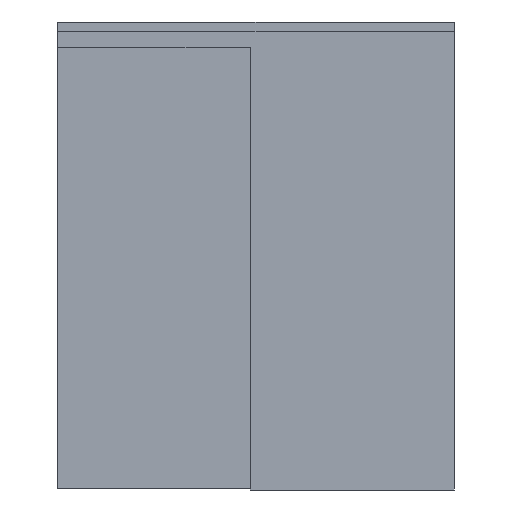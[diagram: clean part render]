
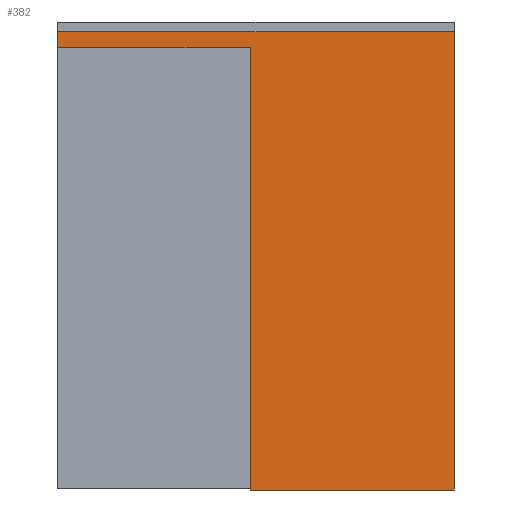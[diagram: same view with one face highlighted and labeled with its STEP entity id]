
A CAD part, front view. The second image highlights one B-rep face of the part: STEP entity #382.
In plain terms, the highlighted planar face has unit normal (0, -1, 0).
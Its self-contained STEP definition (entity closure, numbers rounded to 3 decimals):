
#382=ADVANCED_FACE('',(#1040),#1041,.F.);
#1040=FACE_OUTER_BOUND('',#2007,.T.);
#1041=PLANE('',#2008);
#2007=EDGE_LOOP('',(#3061,#3062,#3063,#3064,#3065,#3066));
#2008=AXIS2_PLACEMENT_3D('',#3067,#3068,#3069);
#3061=ORIENTED_EDGE('',*,*,#5786,.T.);
#3062=ORIENTED_EDGE('',*,*,#5776,.F.);
#3063=ORIENTED_EDGE('',*,*,#5780,.F.);
#3064=ORIENTED_EDGE('',*,*,#5784,.T.);
#3065=ORIENTED_EDGE('',*,*,#5787,.F.);
#3066=ORIENTED_EDGE('',*,*,#5788,.F.);
#3067=CARTESIAN_POINT('',(0.0,-46.5,2333.0));
#3068=DIRECTION('',(0.0,1.0,-0.0));
#3069=DIRECTION('',(0.0,0.0,1.0));
#5776=EDGE_CURVE('',#6918,#6913,#6920,.T.);
#5780=EDGE_CURVE('',#6924,#6918,#6926,.T.);
#5784=EDGE_CURVE('',#6924,#6930,#6932,.T.);
#5786=EDGE_CURVE('',#6934,#6913,#6935,.T.);
#5787=EDGE_CURVE('',#6936,#6930,#6937,.T.);
#5788=EDGE_CURVE('',#6934,#6936,#6938,.T.);
#6913=VERTEX_POINT('',#8601);
#6918=VERTEX_POINT('',#8608);
#6920=LINE('',#8611,#8612);
#6924=VERTEX_POINT('',#8617);
#6926=LINE('',#8620,#8621);
#6930=VERTEX_POINT('',#8626);
#6932=LINE('',#8629,#8630);
#6934=VERTEX_POINT('',#8632);
#6935=LINE('',#8633,#8634);
#6936=VERTEX_POINT('',#8635);
#6937=LINE('',#8636,#8637);
#6938=LINE('',#8638,#8639);
#8601=CARTESIAN_POINT('',(995.0,-46.5,2287.5));
#8608=CARTESIAN_POINT('',(995.0,-46.5,0.0));
#8611=CARTESIAN_POINT('',(995.0,-46.5,7.0));
#8612=VECTOR('',#10849,1.0);
#8617=CARTESIAN_POINT('',(2050.0,-46.5,0.0));
#8620=CARTESIAN_POINT('',(1327.5,-46.5,0.0));
#8621=VECTOR('',#10852,1.0);
#8626=CARTESIAN_POINT('',(2050.0,-46.5,2368.0));
#8629=CARTESIAN_POINT('',(2050.0,-46.5,7.0));
#8630=VECTOR('',#10855,1.0);
#8632=CARTESIAN_POINT('',(0.0,-46.5,2287.5));
#8633=CARTESIAN_POINT('',(0.0,-46.5,2287.5));
#8634=VECTOR('',#10856,1.0);
#8635=CARTESIAN_POINT('',(0.0,-46.5,2368.0));
#8636=CARTESIAN_POINT('',(1270.0,-46.5,2368.0));
#8637=VECTOR('',#10857,1.0);
#8638=CARTESIAN_POINT('',(0.0,-46.5,2301.0));
#8639=VECTOR('',#10858,1.0);
#10849=DIRECTION('',(0.0,0.0,1.0));
#10852=DIRECTION('',(-1.0,0.0,0.0));
#10855=DIRECTION('',(0.0,0.0,1.0));
#10856=DIRECTION('',(1.0,0.0,0.0));
#10857=DIRECTION('',(1.0,0.0,0.0));
#10858=DIRECTION('',(0.0,0.0,1.0));
